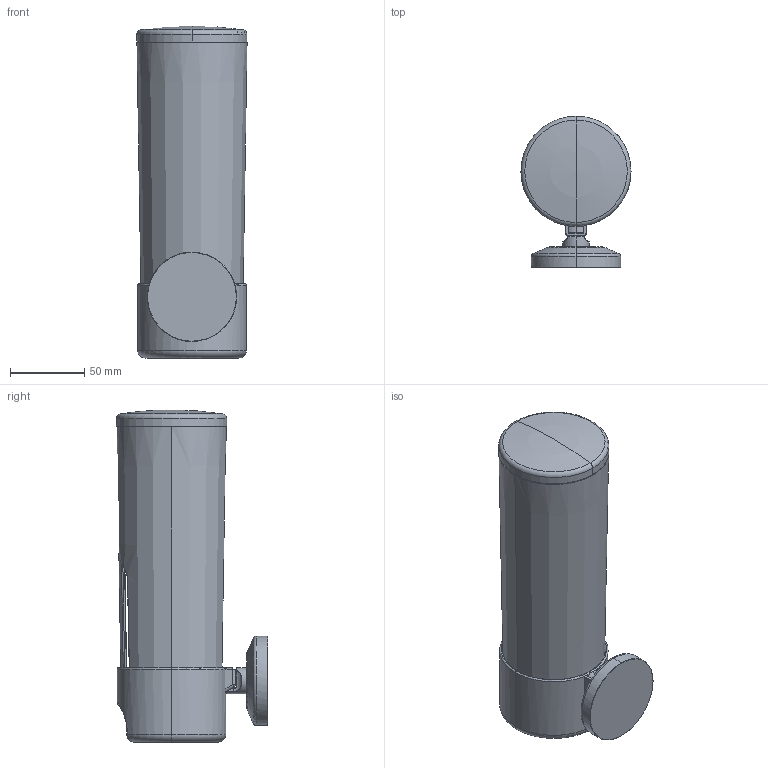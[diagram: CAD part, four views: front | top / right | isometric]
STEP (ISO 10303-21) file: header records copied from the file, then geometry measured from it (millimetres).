
FILE_DESCRIPTION(('THIS FILE CONTAINS SOME STEP INSTANCES'),'1');
FILE_NAME('sta_019.stp','2015-11-30T10:07:58',('UNDEFINED'),('UNDEFINED'),'T-FLEX CAD STEP converter','T-FLEX CAD','');
FILE_SCHEMA(('CONFIG_CONTROL_DESIGN'));
Length unit declared in the file: metre
Products named in the file (4): 3D 鐨飹懤艜_5; 3D 鐨飹懤艜_3; 3D 鐨飹懤艜_7; 3D 鐨飹懤艜_12
Bounding box: 74 x 101.5 x 223.1 mm (x, y, z)
Volume: 200090.2 mm3; surface area: 125358.7 mm2
Topology: 4 solids, 4 shells, 214 faces, 487 edges, 276 vertices
Faces by surface type: plane 83, bspline 40, cylinder 34, cone 32, torus 21, sphere 4
Entity records: 12007 total; most frequent: CARTESIAN_POINT 7822, ORIENTED_EDGE 970, DIRECTION 692, EDGE_CURVE 485, VERTEX_POINT 276, AXIS2_PLACEMENT_3D 242, EDGE_LOOP 217, ADVANCED_FACE 214
